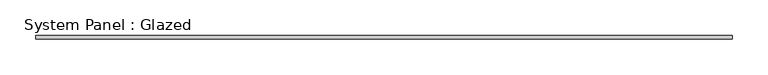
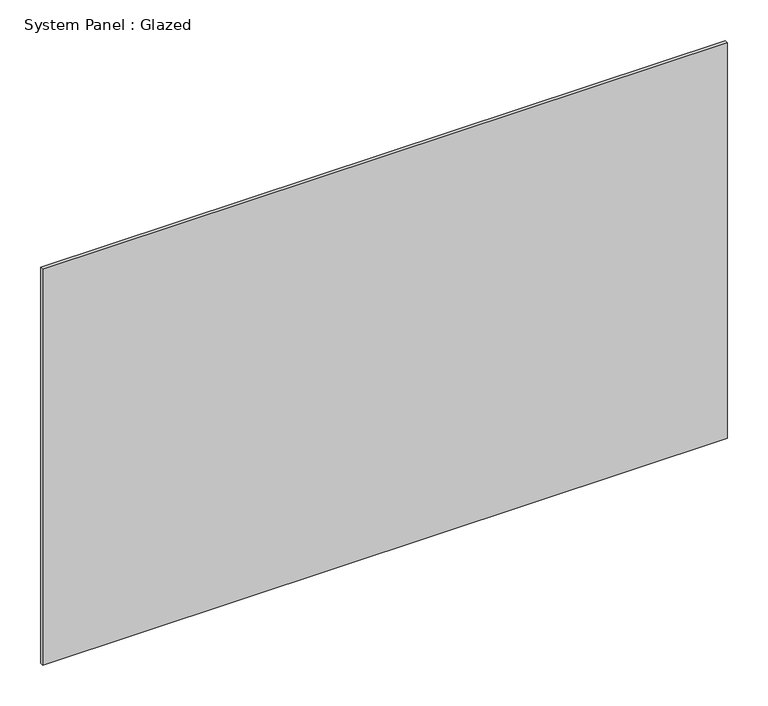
"""IFC4 building model written with IfcOpenShell, lengths in millimetres: plate geometry, System Panel : Glazed."""

from ifc_helpers import new_model, si_unit, origin, origin_with_axes, place, context, project, spatial, polyline, outline, extrude, source, transform, mapped, element, save


def system_panel_glazed_3cc83191(model_context):
    return source(origin(), model_context, "Body", "SweptSolid", [
        extrude(outline(polyline([(487.5, -2.5), (-487.5, -2.5), (-487.5, 2.5), (487.5, 2.5), (487.5, -2.5)])), origin_with_axes(), (0.0, 0.0, 1.0), 595.9168295),
    ])


if __name__ == "__main__":
    model = new_model("IFC4")
    model_context = context("Model", 3, world=origin())
    ifc_project = project(units=[si_unit("LENGTHUNIT", "METRE", prefix="MILLI")], contexts=[model_context])
    site = spatial("IfcSite", under=ifc_project)
    building = spatial("IfcBuilding", under=site)
    placement = place(None, origin())
    system_panel_glazed_shape = system_panel_glazed_3cc83191(model_context)
    element("IfcPlate", 1, ObjectType="System Panel : Glazed", at=placement, inside=building, context=model_context, shape_type="MappedRepresentation", body=[
        mapped(system_panel_glazed_shape, transform((0.0, 0.0, 0.0), x_axis=(1.0, 0.0, 0.0), y_axis=(0.0, 1.0, 0.0), z_axis=(0.0, 0.0, 1.0))),
    ])
    save(model, "model.ifc")
